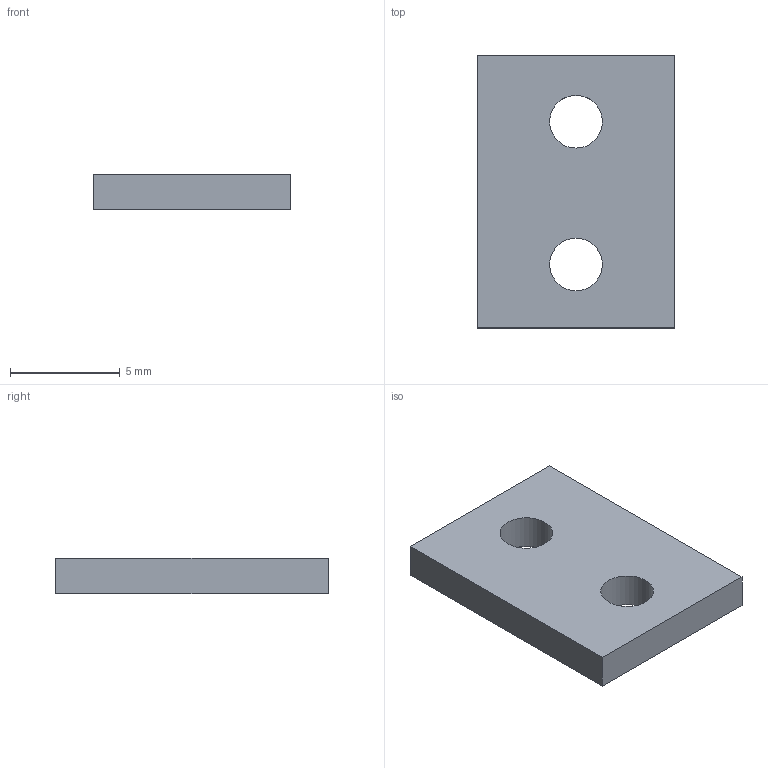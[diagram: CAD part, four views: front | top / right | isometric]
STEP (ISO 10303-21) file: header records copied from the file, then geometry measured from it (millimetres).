
FILE_DESCRIPTION(('Open CASCADE Model'),'2;1');
FILE_NAME('Open CASCADE Shape Model','2026-10-17T16:39:46',('Author'),( 'Open CASCADE'),'Open CASCADE STEP processor 7.9','Open CASCADE 7.9' ,'Unknown');
FILE_SCHEMA(('AUTOMOTIVE_DESIGN { 1 0 10303 214 1 1 1 1 }'));
Length unit declared in the file: millimetre
Products named in the file (1): Open CASCADE STEP translator 7.9 7
Bounding box: 9 x 12.4 x 1.6 mm (x, y, z)
Volume: 164.1 mm3; surface area: 297.7 mm2
Topology: 1 solids, 1 shells, 8 faces, 18 edges, 12 vertices
Faces by surface type: plane 6, cylinder 2
Full cylindrical faces by diameter (mm): 2.4 x2
Entity records: 490 total; most frequent: CARTESIAN_POINT 99, DIRECTION 72, LINE 46, VECTOR 46, ORIENTED_EDGE 36, PCURVE 36, DEFINITIONAL_REPRESENTATION 36, EDGE_CURVE 18
